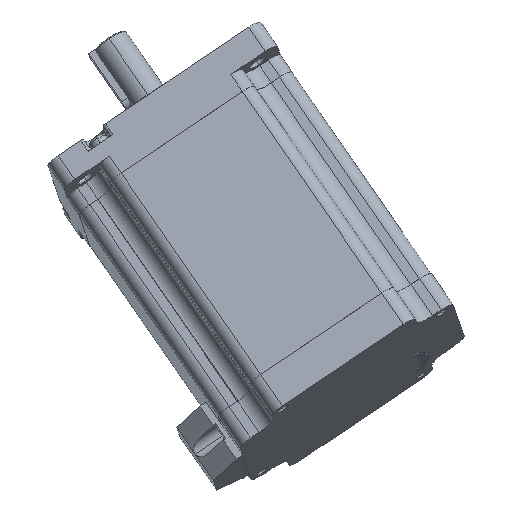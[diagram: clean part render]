
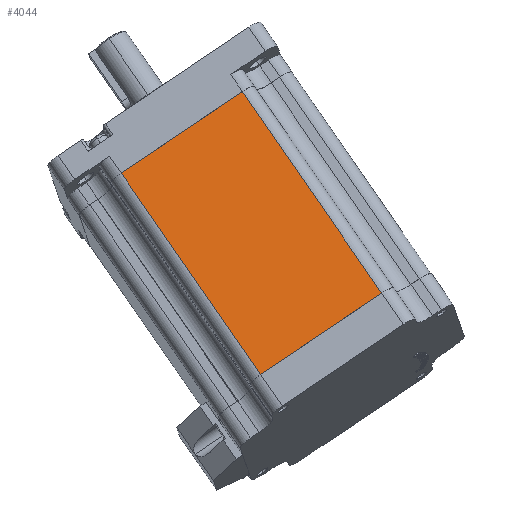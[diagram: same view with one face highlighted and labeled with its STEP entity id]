
A CAD part, left-side view. The second image highlights one B-rep face of the part: STEP entity #4044.
In plain terms, the highlighted planar face has unit normal (-0.975, 0.073, 0.211) as drawn and (-1, 0, 0) by its records, which use the part's own axes.
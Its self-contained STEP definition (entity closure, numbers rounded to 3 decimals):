
#140 = ORIENTED_EDGE ( 'NONE', *, *, #11149, .F. ) ;
#464 = VECTOR ( 'NONE', #2251, 1000. ) ;
#698 = LINE ( 'NONE', #3781, #464 ) ;
#1269 = ORIENTED_EDGE ( 'NONE', *, *, #15235, .F. ) ;
#1602 = CARTESIAN_POINT ( 'NONE',  ( -42.85, 35., -91. ) ) ;
#1971 = EDGE_CURVE ( 'NONE', #11740, #11334, #2581, .T. ) ;
#2251 = DIRECTION ( 'NONE',  ( 0., 0., 1. ) ) ;
#2581 = LINE ( 'NONE', #4677, #18216 ) ;
#3087 = EDGE_LOOP ( 'NONE', ( #10303, #1269, #15416, #140 ) ) ;
#3478 = VERTEX_POINT ( 'NONE', #3833 ) ;
#3646 = LINE ( 'NONE', #10590, #18179 ) ;
#3781 = CARTESIAN_POINT ( 'NONE',  ( -42.85, 24.45, -91. ) ) ;
#3833 = CARTESIAN_POINT ( 'NONE',  ( -42.85, 24.45, -91. ) ) ;
#4044 = ADVANCED_FACE ( 'NONE', ( #10988 ), #14211, .F. ) ;
#4677 = CARTESIAN_POINT ( 'NONE',  ( -42.85, 28.95, -7. ) ) ;
#5003 = DIRECTION ( 'NONE',  ( 0., 0., -1. ) ) ;
#5627 = DIRECTION ( 'NONE',  ( 0., 0., -1. ) ) ;
#5808 = CARTESIAN_POINT ( 'NONE',  ( -42.85, -24.452, -91. ) ) ;
#5814 = DIRECTION ( 'NONE',  ( 1., 0., 0. ) ) ;
#6566 = CARTESIAN_POINT ( 'NONE',  ( -42.85, 24.45, -7. ) ) ;
#7611 = LINE ( 'NONE', #1602, #16842 ) ;
#10303 = ORIENTED_EDGE ( 'NONE', *, *, #1971, .F. ) ;
#10590 = CARTESIAN_POINT ( 'NONE',  ( -42.85, -24.452, -91. ) ) ;
#10856 = AXIS2_PLACEMENT_3D ( 'NONE', #14395, #5814, #5627 ) ;
#10988 = FACE_OUTER_BOUND ( 'NONE', #3087, .T. ) ;
#11149 = EDGE_CURVE ( 'NONE', #11334, #12572, #3646, .T. ) ;
#11334 = VERTEX_POINT ( 'NONE', #17189 ) ;
#11423 = EDGE_CURVE ( 'NONE', #12572, #3478, #7611, .T. ) ;
#11740 = VERTEX_POINT ( 'NONE', #6566 ) ;
#11936 = DIRECTION ( 'NONE',  ( 0., -1., 0. ) ) ;
#12572 = VERTEX_POINT ( 'NONE', #5808 ) ;
#13001 = DIRECTION ( 'NONE',  ( 0., 1., 0. ) ) ;
#14211 = PLANE ( 'NONE',  #10856 ) ;
#14395 = CARTESIAN_POINT ( 'NONE',  ( -42.85, 28.95, -91. ) ) ;
#15235 = EDGE_CURVE ( 'NONE', #3478, #11740, #698, .T. ) ;
#15416 = ORIENTED_EDGE ( 'NONE', *, *, #11423, .F. ) ;
#16842 = VECTOR ( 'NONE', #13001, 1000. ) ;
#17189 = CARTESIAN_POINT ( 'NONE',  ( -42.85, -24.452, -7. ) ) ;
#18179 = VECTOR ( 'NONE', #5003, 1000. ) ;
#18216 = VECTOR ( 'NONE', #11936, 1000. ) ;
